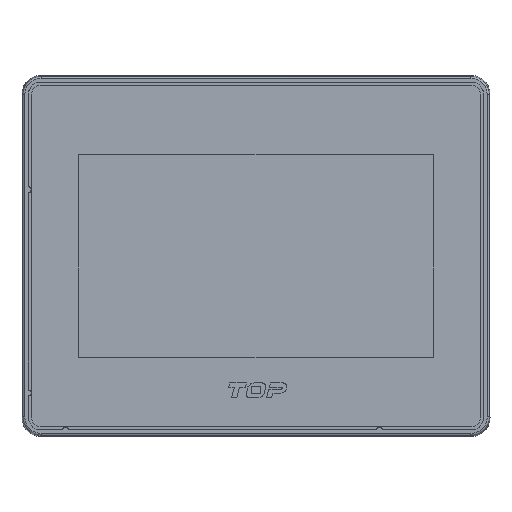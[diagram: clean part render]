
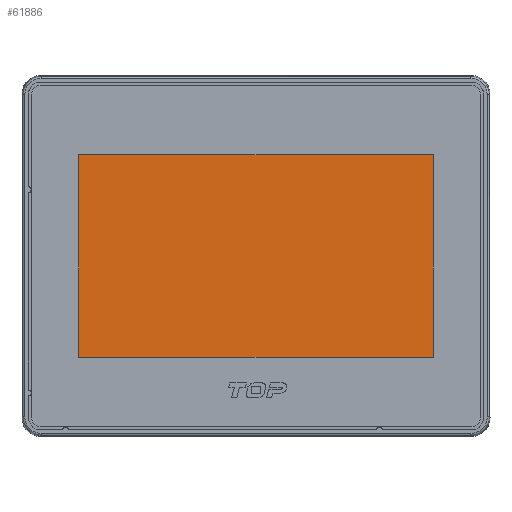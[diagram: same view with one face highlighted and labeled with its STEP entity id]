
A CAD part, top view. The second image highlights one B-rep face of the part: STEP entity #61886.
In plain terms, the highlighted planar face has unit normal (0, 0, 1).
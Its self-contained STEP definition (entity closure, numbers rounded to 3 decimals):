
#9438=DIRECTION('',(0.,1.,0.));
#9439=VECTOR('',#9438,54.8);
#9440=CARTESIAN_POINT('',(-48.,-27.4,4.68));
#9441=LINE('',#9440,#9439);
#9442=DIRECTION('',(1.,0.,0.));
#9443=VECTOR('',#9442,96.);
#9444=CARTESIAN_POINT('',(-48.,27.4,4.68));
#9445=LINE('',#9444,#9443);
#9446=DIRECTION('',(0.,-1.,0.));
#9447=VECTOR('',#9446,54.8);
#9448=CARTESIAN_POINT('',(48.,27.4,4.68));
#9449=LINE('',#9448,#9447);
#9450=DIRECTION('',(-1.,0.,0.));
#9451=VECTOR('',#9450,96.);
#9452=CARTESIAN_POINT('',(48.,-27.4,4.68));
#9453=LINE('',#9452,#9451);
#42019=CARTESIAN_POINT('',(-48.,27.4,4.68));
#42020=VERTEX_POINT('',#42019);
#42021=CARTESIAN_POINT('',(-48.,-27.4,4.68));
#42022=VERTEX_POINT('',#42021);
#42023=CARTESIAN_POINT('',(48.,27.4,4.68));
#42024=VERTEX_POINT('',#42023);
#42025=CARTESIAN_POINT('',(48.,-27.4,4.68));
#42026=VERTEX_POINT('',#42025);
#61875=CARTESIAN_POINT('',(0.,0.,4.68));
#61876=DIRECTION('',(0.,0.,1.));
#61877=DIRECTION('',(1.,0.,0.));
#61878=AXIS2_PLACEMENT_3D('',#61875,#61876,#61877);
#61879=PLANE('',#61878);
#61880=ORIENTED_EDGE('',*,*,#61827,.T.);
#61881=ORIENTED_EDGE('',*,*,#61842,.T.);
#61882=ORIENTED_EDGE('',*,*,#61856,.T.);
#61883=ORIENTED_EDGE('',*,*,#61869,.T.);
#61884=EDGE_LOOP('',(#61880,#61881,#61882,#61883));
#61885=FACE_OUTER_BOUND('',#61884,.F.);
#61886=ADVANCED_FACE('',(#61885),#61879,.T.);
#61827=EDGE_CURVE('',#42022,#42020,#9441,.T.);
#61842=EDGE_CURVE('',#42020,#42024,#9445,.T.);
#61856=EDGE_CURVE('',#42024,#42026,#9449,.T.);
#61869=EDGE_CURVE('',#42026,#42022,#9453,.T.);
